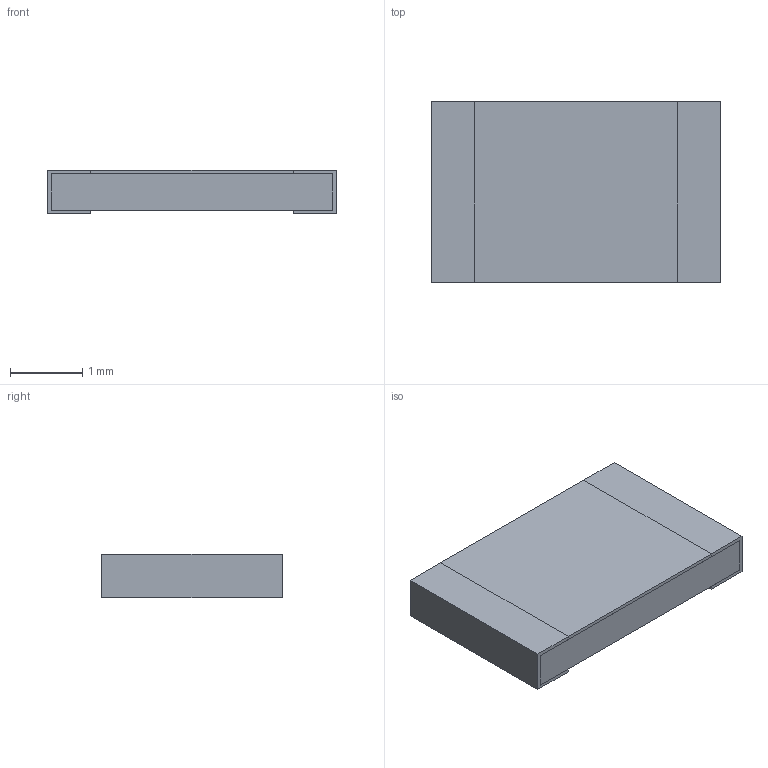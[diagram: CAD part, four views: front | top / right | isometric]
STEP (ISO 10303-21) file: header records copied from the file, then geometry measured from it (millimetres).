
FILE_DESCRIPTION(('STEP AP203'), '1');
FILE_NAME('R1-33-3', '', ('UNSPECIFIED'), ('UNSPECIFIED'), 'ASCON STEP Converter 1.6', 'ASCON Math Kernel', '');
FILE_SCHEMA(('CONFIG_CONTROL_DESIGN'));
Length unit declared in the file: millimetre
Bounding box: 4 x 2.5 x 0.6 mm (x, y, z)
Volume: 5.7 mm3; surface area: 58.3 mm2
Topology: 4 solids, 4 shells, 32 faces, 72 edges, 48 vertices
Faces by surface type: plane 32
Entity records: 1194 total; most frequent: CARTESIAN_POINT 153, ORIENTED_EDGE 144, DIRECTION 138, EDGE_CURVE 72, LINE 72, VECTOR 72, VERTEX_POINT 48, COLOUR_RGB 36
